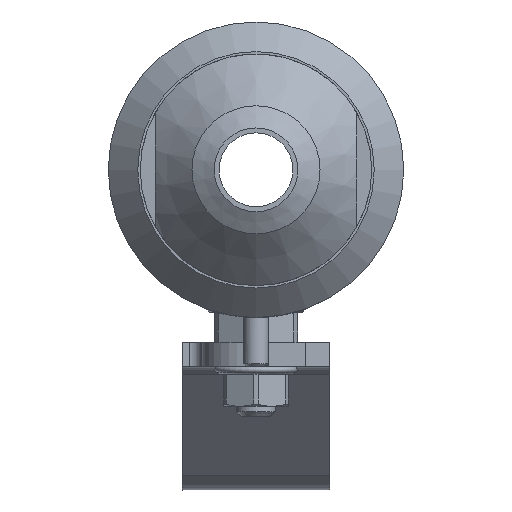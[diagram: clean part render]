
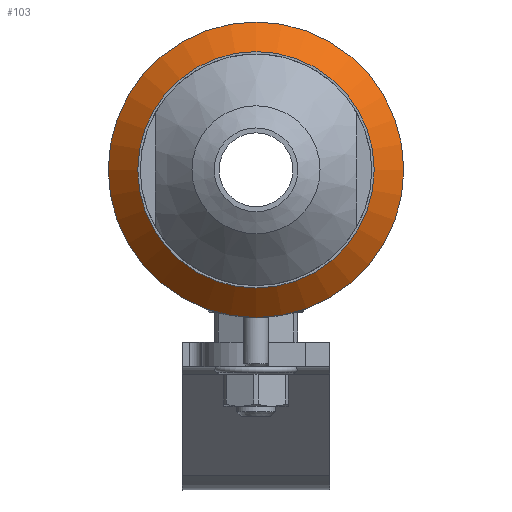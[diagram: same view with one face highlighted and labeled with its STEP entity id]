
A CAD part, left-side view. The second image highlights one B-rep face of the part: STEP entity #103.
In plain terms, the highlighted conical face has half-angle 45 degrees and reference radius 27 mm.
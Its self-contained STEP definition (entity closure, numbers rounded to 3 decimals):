
#103=ADVANCED_FACE('',(#742),#744,.T.);
#742=FACE_OUTER_BOUND('',#743,.T.);
#743=EDGE_LOOP('',(#1656,#1657,#1658,#1659));
#744=CONICAL_SURFACE('',#745,27.,0.785);
#745=AXIS2_PLACEMENT_3D('',#746,#747,#748);
#746=CARTESIAN_POINT('',(-31.,0.,0.));
#747=DIRECTION('',(1.,0.,0.));
#748=DIRECTION('',(0.,1.,0.));
#1656=ORIENTED_EDGE('',*,*,#2469,.T.);
#1657=ORIENTED_EDGE('',*,*,#2470,.T.);
#1658=ORIENTED_EDGE('',*,*,#2469,.F.);
#1659=ORIENTED_EDGE('',*,*,#2453,.F.);
#2453=EDGE_CURVE('',#2711,#2711,#2712,.T.);
#2469=EDGE_CURVE('',#2711,#2741,#2742,.T.);
#2470=EDGE_CURVE('',#2741,#2741,#2743,.T.);
#2711=VERTEX_POINT('',#3131);
#2712=CIRCLE('',#3132,24.);
#2741=VERTEX_POINT('',#3269);
#2742=LINE('',#3270,#3271);
#2743=CIRCLE('',#3273,30.);
#3131=CARTESIAN_POINT('',(-34.,-24.,0.));
#3132=AXIS2_PLACEMENT_3D('',#3133,#3134,#3135);
#3133=CARTESIAN_POINT('',(-34.,0.,0.));
#3134=DIRECTION('',(-1.,0.,0.));
#3135=DIRECTION('',(0.,-1.,0.));
#3269=CARTESIAN_POINT('',(-28.,-30.,0.));
#3270=CARTESIAN_POINT('',(-34.,-24.,0.));
#3271=VECTOR('',#3272,1.);
#3272=DIRECTION('',(0.707,-0.707,0.));
#3273=AXIS2_PLACEMENT_3D('',#3274,#3275,#3276);
#3274=CARTESIAN_POINT('',(-28.,0.,0.));
#3275=DIRECTION('',(-1.,0.,0.));
#3276=DIRECTION('',(0.,-1.,0.));
